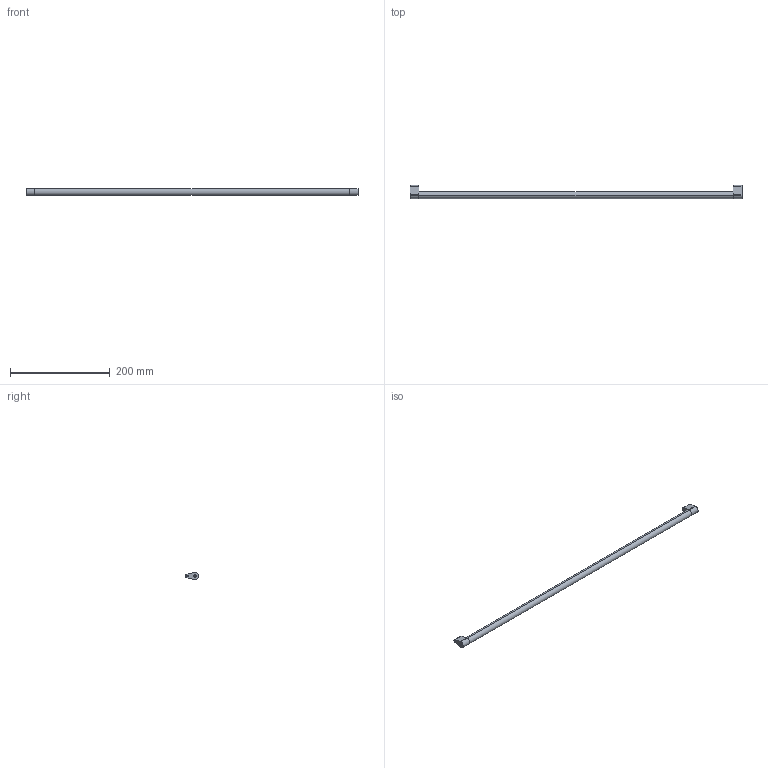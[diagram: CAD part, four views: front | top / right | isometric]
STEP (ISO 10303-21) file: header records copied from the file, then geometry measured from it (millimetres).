
FILE_DESCRIPTION (( 'STEP AP214' ), '1' );
FILE_NAME ('_Synchronisationseinheit Nova Pro KAB750_S16.step', '2010-07-08T13:58:31', ( 'grass' ), ( '' ), 'SwSTEP 2.0', 'SolidWorks 2010', '' );
FILE_SCHEMA (( 'AUTOMOTIVE_DESIGN' ));
Length unit declared in the file: millimetre
Products named in the file (1): _Synchronisationseinheit Nova Pro KAB750_S16
Bounding box: 665 x 26.5 x 14 mm (x, y, z)
Volume: 106055.6 mm3; surface area: 32095.2 mm2
Topology: 3 solids, 3 shells, 36 faces, 78 edges, 52 vertices
Faces by surface type: cylinder 18, plane 18
Entity records: 1050 total; most frequent: DIRECTION 188, CARTESIAN_POINT 167, ORIENTED_EDGE 156, EDGE_CURVE 78, AXIS2_PLACEMENT_3D 73, VERTEX_POINT 52, LINE 42, VECTOR 42
